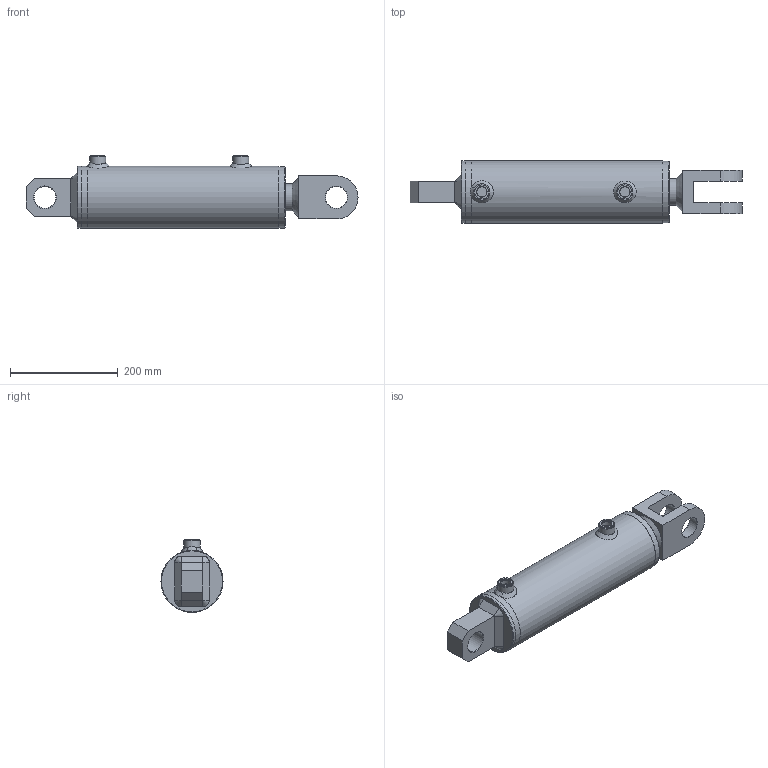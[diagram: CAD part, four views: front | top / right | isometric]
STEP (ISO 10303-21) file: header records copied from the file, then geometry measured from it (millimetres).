
FILE_DESCRIPTION( ( 'Unknown' ), '1' );
FILE_NAME( 'E:/LIBRERIA_3d/CILINDRI/HM5/HM56500200.stp', 'Unknown', ( 'Unknown' ), ( 'Unknown' ), 'PSStep 17.0.49', 'Unknown', ' ' );
FILE_SCHEMA( ( 'AUTOMOTIVE_DESIGN { 1 0 10303 214 1 1 1 1 }' ) );
Length unit declared in the file: millimetre
Products named in the file (29): STL6700200-oa7; Saldatura d'angolo 1-oa5; FTM6700200-oa6; CBSC220800; CG11510050; CT00100033; HM06500200; CF00100115; Saldatura con preparazione 1-oa3; Saldatura d'angolo 1-oa4; CBS0800000; CDA0003320; APG0800000; SBL5060200; Assem1; CSCS004010; CFS0000040; COF4000000; Saldatura d'angolo 1-oa0; Saldatura con preparazione 1-oa1; Saldatura d'angolo 2-oa2
Assembly tree (21 placements, depth 4):
  Saldatura d'angolo 1-oa5
  Saldatura d'angolo 1-oa5
  Saldatura d'angolo 1-oa4
  Saldatura d'angolo 1-oa4
  Assem1
    CSCS004010
    CFS0000040
    COF4000000
    Saldatura con preparazione 1-oa1
    Saldatura con preparazione 1-oa1
    HM06500200
      CF00100115
      Saldatura con preparazione 1-oa3
      Saldatura con preparazione 1-oa3
      CBS0800000
      CDA0003320
      APG0800000  x2
      SBL5060200
      CG11510050
        CG11510050
      CT00100033
        CT00100033
      STL6700200-oa7
        FTM6700200-oa6
        CBSC220800
Bounding box: 615 x 115 x 135 mm (x, y, z)
Volume: 3174542.2 mm3; surface area: 605077.4 mm2
Topology: 25 solids, 25 shells, 283 faces, 602 edges, 370 vertices
Faces by surface type: plane 94, cylinder 71, cone 48, torus 36, bspline 34
Full cylindrical faces by diameter (mm): 4.25 x3, 8 x2, 12 x1, 18.631 x2, 19.5 x2, 20.95 x2, 26 x2, 30 x2, 32.4 x1, 33 x5, 39.2 x1, 40.25 x3, 50 x10, 53 x3, 58.6 x1, 60 x1, 75 x1, 91.5 x1, 93.14 x2, 98.05 x2, 99.9 x1, 100 x1, 100.3 x1, 100.5 x1, 100.6 x1, 101 x1, 102 x3, 102.835 x1, 105 x1, 114 x1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
Entity records: 11908 total; most frequent: CARTESIAN_POINT 4536, DIRECTION 1062, ORIENTED_EDGE 768, AXIS2_PLACEMENT_3D 484, EDGE_LOOP 475, EDGE_CURVE 384, FACE_OUTER_BOUND 378, VERTEX_POINT 314
